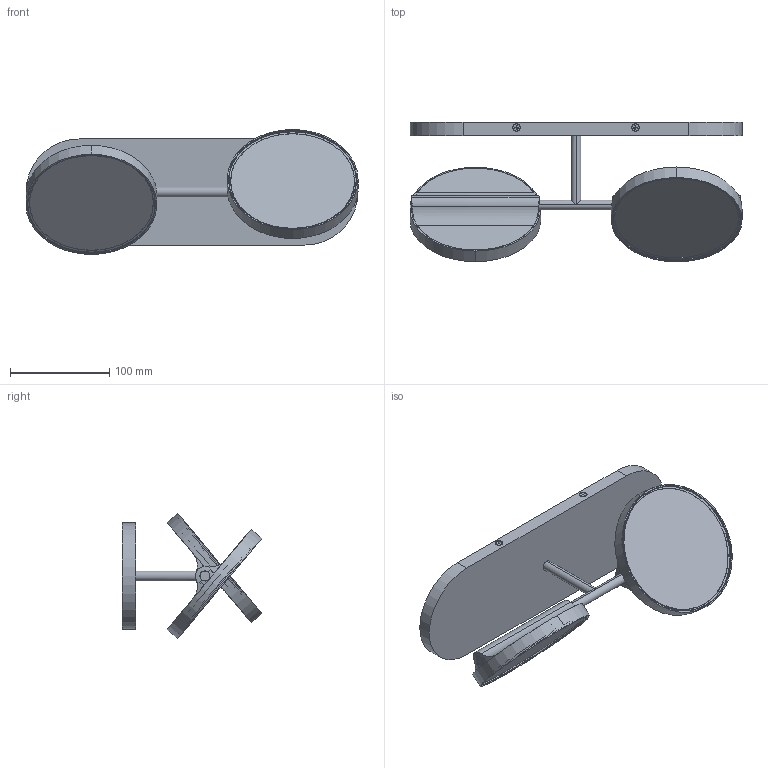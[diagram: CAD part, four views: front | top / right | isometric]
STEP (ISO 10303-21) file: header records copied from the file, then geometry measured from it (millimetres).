
FILE_DESCRIPTION (( 'STEP AP203' ), '1' );
FILE_NAME ('VL72213.STEP', '2023-08-04T18:57:20', ( '' ), ( '' ), 'SwSTEP 2.0', 'SolidWorks 2018', '' );
FILE_SCHEMA (( 'CONFIG_CONTROL_DESIGN' ));
Length unit declared in the file: millimetre
Products named in the file (5): VL72213-Back Plate; flat head 100 screw_ai_CR-FHM1 0.164-32x0.375x0.375-S; VL72213; VL72213-Light; Light Fixture
Assembly tree (8 placements, depth 2):
  VL72213
    Light Fixture
    VL72213-Back Plate
    flat head 100 screw_ai_CR-FHM1 0.164-32x0.375x0.375-S  x4
    VL72213-Light  x2
Bounding box: 335 x 140.88 x 126.19 mm (x, y, z)
Volume: 463401 mm3; surface area: 446191.2 mm2
Topology: 25 solids, 25 shells, 1640 faces, 4208 edges, 2710 vertices
Faces by surface type: cylinder 856, plane 438, cone 256, bspline 90
Entity records: 38587 total; most frequent: CARTESIAN_POINT 18709, ORIENTED_EDGE 4222, DIRECTION 3884, EDGE_CURVE 2111, AXIS2_PLACEMENT_3D 1474, VERTEX_POINT 1363, EDGE_LOOP 946, VECTOR 936
